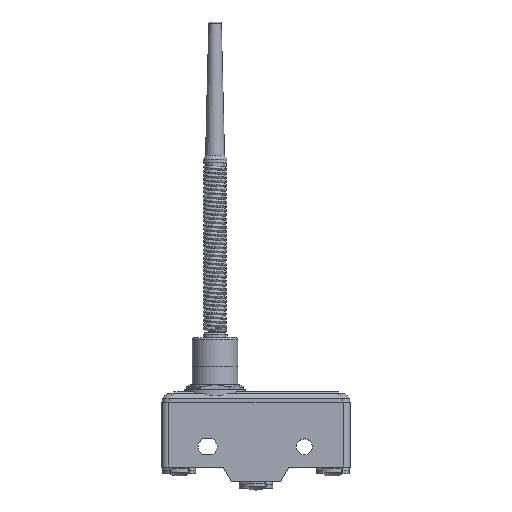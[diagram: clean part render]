
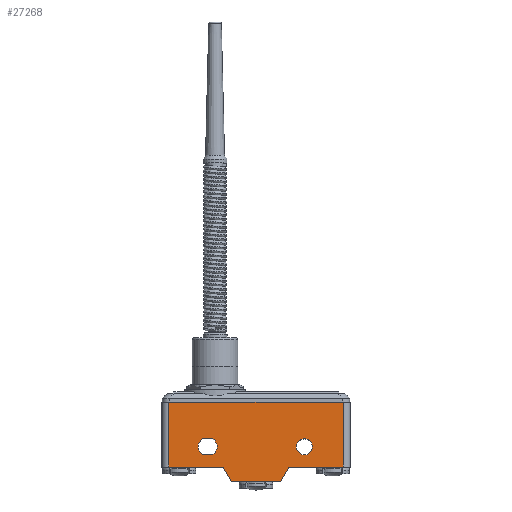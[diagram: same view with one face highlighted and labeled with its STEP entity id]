
A CAD part, top view. The second image highlights one B-rep face of the part: STEP entity #27268.
In plain terms, the highlighted planar face has unit normal (0, 0, 1).
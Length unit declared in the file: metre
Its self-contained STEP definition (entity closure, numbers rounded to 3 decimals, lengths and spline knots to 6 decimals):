
#22608=CARTESIAN_POINT('',(0.007871,-0.003357,0.05825));
#22609=VERTEX_POINT('',#22608);
#22612=CARTESIAN_POINT('',(0.005735,-0.007057,0.05825));
#22613=DIRECTION('',(0.5,0.866,0.));
#22614=VECTOR('',#22613,1.);
#22615=LINE('',#22612,#22614);
#22616=CARTESIAN_POINT('',(0.005735,-0.007057,0.05825));
#22617=VERTEX_POINT('',#22616);
#22618=EDGE_CURVE('',#22617,#22609,#22615,.T.);
#23524=CARTESIAN_POINT('',(-0.007193,-0.007057,0.05825));
#23525=VERTEX_POINT('',#23524);
#23528=CARTESIAN_POINT('',(-0.009329,-0.003357,0.05825));
#23529=DIRECTION('',(0.5,-0.866,0.));
#23530=VECTOR('',#23529,1.);
#23531=LINE('',#23528,#23530);
#23532=CARTESIAN_POINT('',(-0.009329,-0.003357,0.05825));
#23533=VERTEX_POINT('',#23532);
#23534=EDGE_CURVE('',#23533,#23525,#23531,.T.);
#23611=CARTESIAN_POINT('',(-0.023679,0.013643,0.05825));
#23612=VERTEX_POINT('',#23611);
#23621=CARTESIAN_POINT('',(-0.023679,-0.003357,0.05825));
#23622=VERTEX_POINT('',#23621);
#23625=CARTESIAN_POINT('',(-0.023679,0.001243,0.05825));
#23626=DIRECTION('',(0.,-1.,0.));
#23627=VECTOR('',#23626,1.);
#23628=LINE('',#23625,#23627);
#23629=EDGE_CURVE('',#23612,#23622,#23628,.T.);
#24950=CARTESIAN_POINT('',(-0.025429,-0.003357,0.05825));
#24951=DIRECTION('',(1.,0.,0.));
#24952=VECTOR('',#24951,1.);
#24953=LINE('',#24950,#24952);
#24954=EDGE_CURVE('',#23622,#23533,#24953,.T.);
#25111=CARTESIAN_POINT('',(0.022221,-0.003357,0.05825));
#25112=VERTEX_POINT('',#25111);
#25130=CARTESIAN_POINT('',(0.022221,0.013643,0.05825));
#25131=VERTEX_POINT('',#25130);
#25134=CARTESIAN_POINT('',(0.022221,0.001243,0.05825));
#25135=DIRECTION('',(0.,1.,0.));
#25136=VECTOR('',#25135,1.);
#25137=LINE('',#25134,#25136);
#25138=EDGE_CURVE('',#25112,#25131,#25137,.T.);
#25248=CARTESIAN_POINT('',(0.023971,0.013643,0.05825));
#25249=DIRECTION('',(-1.,0.,0.));
#25250=VECTOR('',#25249,1.);
#25251=LINE('',#25248,#25250);
#25252=EDGE_CURVE('',#25131,#23612,#25251,.T.);
#27053=CARTESIAN_POINT('',(0.007871,-0.003357,0.05825));
#27054=DIRECTION('',(1.,0.,0.));
#27055=VECTOR('',#27054,1.);
#27056=LINE('',#27053,#27055);
#27057=EDGE_CURVE('',#22609,#25112,#27056,.T.);
#27091=CARTESIAN_POINT('',(-0.014786,0.004043,0.05825));
#27092=VERTEX_POINT('',#27091);
#27095=CARTESIAN_POINT('',(-0.013429,0.001943,0.05825));
#27096=DIRECTION('',(0.,0.,1.));
#27097=DIRECTION('',(1.,0.,0.));
#27098=AXIS2_PLACEMENT_3D('',#27095,#27096,#27097);
#27099=CIRCLE('',#27098,0.0025);
#27100=CARTESIAN_POINT('',(-0.014786,-0.000157,0.05825));
#27101=VERTEX_POINT('',#27100);
#27102=EDGE_CURVE('',#27092,#27101,#27099,.T.);
#27135=CARTESIAN_POINT('',(-0.012073,-0.000157,0.05825));
#27136=DIRECTION('',(1.,0.,0.));
#27137=VECTOR('',#27136,1.);
#27138=LINE('',#27135,#27137);
#27139=CARTESIAN_POINT('',(-0.012073,-0.000157,0.05825));
#27140=VERTEX_POINT('',#27139);
#27141=EDGE_CURVE('',#27101,#27140,#27138,.T.);
#27165=CARTESIAN_POINT('',(-0.013429,0.001943,0.05825));
#27166=DIRECTION('',(0.,0.,1.));
#27167=DIRECTION('',(1.,0.,0.));
#27168=AXIS2_PLACEMENT_3D('',#27165,#27166,#27167);
#27169=CIRCLE('',#27168,0.0025);
#27170=CARTESIAN_POINT('',(-0.012073,0.004043,0.05825));
#27171=VERTEX_POINT('',#27170);
#27172=EDGE_CURVE('',#27140,#27171,#27169,.T.);
#27207=CARTESIAN_POINT('',(-0.012073,0.004043,0.05825));
#27208=DIRECTION('',(-1.,0.,0.));
#27209=VECTOR('',#27208,1.);
#27210=LINE('',#27207,#27209);
#27211=EDGE_CURVE('',#27171,#27092,#27210,.T.);
#27231=CARTESIAN_POINT('',(0.012611,0.001243,0.05825));
#27232=DIRECTION('',(0.,0.,-1.));
#27233=DIRECTION('',(-1.,0.,0.));
#27234=AXIS2_PLACEMENT_3D('',#27231,#27232,#27233);
#27235=PLANE('',#27234);
#27236=ORIENTED_EDGE('',*,*,#27211,.F.);
#27237=ORIENTED_EDGE('',*,*,#27172,.F.);
#27238=ORIENTED_EDGE('',*,*,#27141,.F.);
#27239=ORIENTED_EDGE('',*,*,#27102,.F.);
#27240=EDGE_LOOP('',(#27236,#27237,#27238,#27239));
#27241=FACE_BOUND('',#27240,.T.);
#27242=CARTESIAN_POINT('',(0.011971,0.001943,0.05825));
#27243=DIRECTION('',(0.,0.,1.));
#27244=DIRECTION('',(1.,0.,0.));
#27245=AXIS2_PLACEMENT_3D('',#27242,#27243,#27244);
#27246=CIRCLE('',#27245,0.0021);
#27247=CARTESIAN_POINT('',(0.009871,0.001943,0.05825));
#27248=VERTEX_POINT('',#27247);
#27249=EDGE_CURVE('',#27248,#27248,#27246,.T.);
#27250=ORIENTED_EDGE('',*,*,#27249,.F.);
#27251=EDGE_LOOP('',(#27250));
#27252=FACE_BOUND('',#27251,.T.);
#27253=ORIENTED_EDGE('',*,*,#27057,.T.);
#27254=ORIENTED_EDGE('',*,*,#25138,.T.);
#27255=ORIENTED_EDGE('',*,*,#25252,.T.);
#27256=ORIENTED_EDGE('',*,*,#23629,.T.);
#27257=ORIENTED_EDGE('',*,*,#24954,.T.);
#27258=ORIENTED_EDGE('',*,*,#23534,.T.);
#27259=CARTESIAN_POINT('',(-0.007193,-0.007057,0.05825));
#27260=DIRECTION('',(1.,0.,0.));
#27261=VECTOR('',#27260,1.);
#27262=LINE('',#27259,#27261);
#27263=EDGE_CURVE('',#23525,#22617,#27262,.T.);
#27264=ORIENTED_EDGE('',*,*,#27263,.T.);
#27265=ORIENTED_EDGE('',*,*,#22618,.T.);
#27266=EDGE_LOOP('',(#27253,#27254,#27255,#27256,#27257,#27258,#27264,#27265));
#27267=FACE_BOUND('',#27266,.T.);
#27268=ADVANCED_FACE('',(#27241,#27252,#27267),#27235,.F.);
